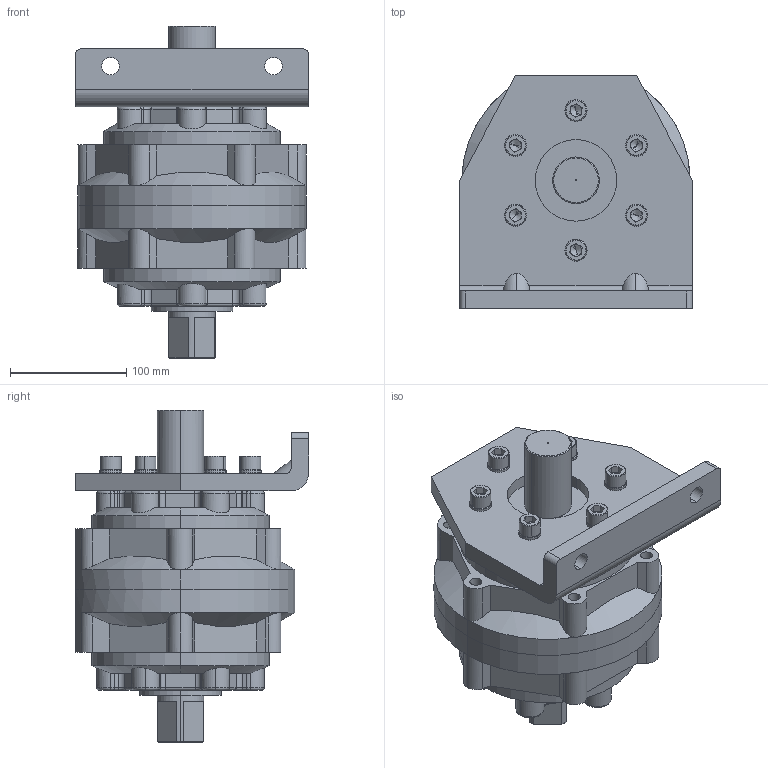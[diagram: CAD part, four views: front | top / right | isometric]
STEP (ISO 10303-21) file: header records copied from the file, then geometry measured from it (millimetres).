
FILE_DESCRIPTION (( 'STEP AP203' ), '1' );
FILE_NAME ('PRN800#-#-#-L1.STEP', '2016-01-14T16:50:25', ( '' ), ( '' ), 'SwSTEP 2.0', 'SolidWorks 2014', '' );
FILE_SCHEMA (( 'CONFIG_CONTROL_DESIGN' ));
Length unit declared in the file: millimetre
Products named in the file (8): mark-PRN800; ISO 4762 M12 x 30; PRN800 (2); PRN800#-#-#-L1-4; PRN800 (3); PRN800#-#-#-L1; M12T3墊片; PRN800 (1)
Assembly tree (17 placements, depth 2):
  PRN800#-#-#-L1
    PRN800 (1)
    PRN800 (2)
    PRN800 (3)
    mark-PRN800
    PRN800#-#-#-L1-4
    ISO 4762 M12 x 30  x6
    M12T3墊片  x6
Bounding box: 200 x 200.2 x 285 mm (x, y, z)
Volume: 4335299.6 mm3; surface area: 408174.8 mm2
Topology: 23 solids, 23 shells, 755 faces, 1828 edges, 1114 vertices
Faces by surface type: plane 288, cylinder 281, torus 99, cone 79, bspline 8
Entity records: 19356 total; most frequent: CARTESIAN_POINT 4340, DIRECTION 3051, ORIENTED_EDGE 2816, EDGE_CURVE 1408, AXIS2_PLACEMENT_3D 1174, VERTEX_POINT 889, LINE 703, VECTOR 703
